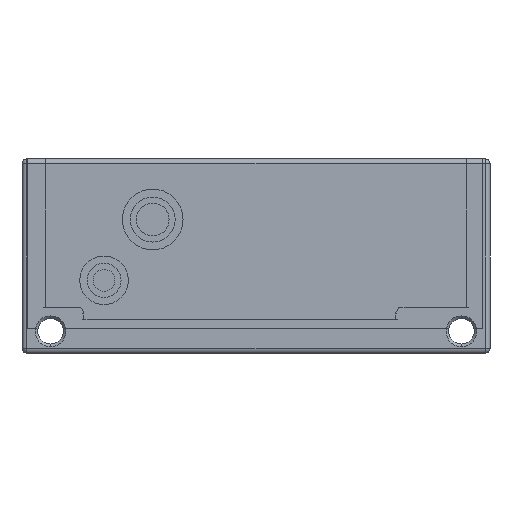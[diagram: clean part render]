
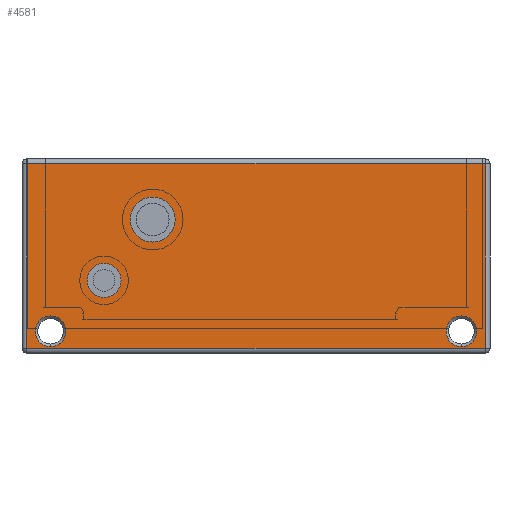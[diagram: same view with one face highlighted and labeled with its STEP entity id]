
A CAD part, front view. The second image highlights one B-rep face of the part: STEP entity #4581.
In plain terms, the highlighted planar face has unit normal (0, -1, 0).
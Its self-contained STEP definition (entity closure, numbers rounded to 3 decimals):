
#6 = DIRECTION ( 'NONE',  ( 0., -1., 0. ) ) ;
#62 = CARTESIAN_POINT ( 'NONE',  ( -35.2, -0.3, -0.83 ) ) ;
#121 = LINE ( 'NONE', #9967, #369 ) ;
#267 = ORIENTED_EDGE ( 'NONE', *, *, #4319, .F. ) ;
#337 = DIRECTION ( 'NONE',  ( 0., 0., 1. ) ) ;
#369 = VECTOR ( 'NONE', #4908, 1000. ) ;
#477 = VERTEX_POINT ( 'NONE', #10127 ) ;
#709 = EDGE_CURVE ( 'NONE', #477, #6139, #9140, .T. ) ;
#722 = EDGE_CURVE ( 'NONE', #6003, #10353, #3572, .T. ) ;
#779 = EDGE_CURVE ( 'NONE', #7258, #6679, #6004, .T. ) ;
#1128 = ORIENTED_EDGE ( 'NONE', *, *, #3083, .F. ) ;
#1199 = FACE_OUTER_BOUND ( 'NONE', #9115, .T. ) ;
#1308 = CARTESIAN_POINT ( 'NONE',  ( 40.2, -0.3, -31.23 ) ) ;
#1378 = EDGE_LOOP ( 'NONE', ( #9642, #267 ) ) ;
#1395 = CARTESIAN_POINT ( 'NONE',  ( 36.3, -0.3, -30.94 ) ) ;
#1521 = CARTESIAN_POINT ( 'NONE',  ( -10.8, -0.3, -10.03 ) ) ;
#1684 = DIRECTION ( 'NONE',  ( 0., -1., 0. ) ) ;
#1752 = ORIENTED_EDGE ( 'NONE', *, *, #2335, .T. ) ;
#1864 = CARTESIAN_POINT ( 'NONE',  ( -22.5, -0.3, -20.03 ) ) ;
#1992 = EDGE_LOOP ( 'NONE', ( #1128, #8421 ) ) ;
#2044 = EDGE_CURVE ( 'NONE', #7936, #4345, #2794, .T. ) ;
#2070 = DIRECTION ( 'NONE',  ( 1., 0., 0. ) ) ;
#2239 = FACE_BOUND ( 'NONE', #7677, .T. ) ;
#2335 = EDGE_CURVE ( 'NONE', #4345, #477, #121, .T. ) ;
#2364 = CARTESIAN_POINT ( 'NONE',  ( -14.5, -0.3, -10.03 ) ) ;
#2405 = DIRECTION ( 'NONE',  ( 0., 0., -1. ) ) ;
#2545 = AXIS2_PLACEMENT_3D ( 'NONE', #7473, #6, #6481 ) ;
#2738 = CARTESIAN_POINT ( 'NONE',  ( -31.3, -0.3, -28.415 ) ) ;
#2791 = VERTEX_POINT ( 'NONE', #1521 ) ;
#2794 = LINE ( 'NONE', #8663, #4095 ) ;
#2932 = CIRCLE ( 'NONE', #5522, 2.525 ) ;
#3050 = AXIS2_PLACEMENT_3D ( 'NONE', #4085, #1684, #9040 ) ;
#3055 = DIRECTION ( 'NONE',  ( 0., -1., 0. ) ) ;
#3058 = CARTESIAN_POINT ( 'NONE',  ( -19.7, -0.3, -20.03 ) ) ;
#3082 = ORIENTED_EDGE ( 'NONE', *, *, #4508, .F. ) ;
#3083 = EDGE_CURVE ( 'NONE', #6679, #7258, #8988, .T. ) ;
#3265 = CARTESIAN_POINT ( 'NONE',  ( 36.3, -0.3, -25.89 ) ) ;
#3530 = CARTESIAN_POINT ( 'NONE',  ( -35.2, -0.3, -31.23 ) ) ;
#3572 = CIRCLE ( 'NONE', #3050, 2.525 ) ;
#3651 = DIRECTION ( 'NONE',  ( 0., 0., -1. ) ) ;
#3987 = CARTESIAN_POINT ( 'NONE',  ( -31.3, -0.3, -28.415 ) ) ;
#4085 = CARTESIAN_POINT ( 'NONE',  ( 36.3, -0.3, -28.415 ) ) ;
#4095 = VECTOR ( 'NONE', #337, 1000. ) ;
#4096 = DIRECTION ( 'NONE',  ( 0., 0., -1. ) ) ;
#4172 = VERTEX_POINT ( 'NONE', #10348 ) ;
#4219 = CARTESIAN_POINT ( 'NONE',  ( -25.3, -0.3, -20.03 ) ) ;
#4284 = LINE ( 'NONE', #7566, #8571 ) ;
#4311 = DIRECTION ( 'NONE',  ( 0., -1., 0. ) ) ;
#4319 = EDGE_CURVE ( 'NONE', #10316, #2791, #7976, .T. ) ;
#4345 = VERTEX_POINT ( 'NONE', #8655 ) ;
#4425 = EDGE_CURVE ( 'NONE', #4172, #6234, #2932, .T. ) ;
#4479 = AXIS2_PLACEMENT_3D ( 'NONE', #62, #5826, #8169 ) ;
#4508 = EDGE_CURVE ( 'NONE', #10353, #6003, #7098, .T. ) ;
#4512 = DIRECTION ( 'NONE',  ( 0., -1., 0. ) ) ;
#4581 = ADVANCED_FACE ( 'NONE', ( #1199, #2239, #5549, #8872, #7844 ), #6202, .T. ) ;
#4607 = ORIENTED_EDGE ( 'NONE', *, *, #722, .F. ) ;
#4627 = DIRECTION ( 'NONE',  ( 0., 0., -1. ) ) ;
#4713 = ORIENTED_EDGE ( 'NONE', *, *, #709, .T. ) ;
#4832 = AXIS2_PLACEMENT_3D ( 'NONE', #8706, #3055, #4627 ) ;
#4908 = DIRECTION ( 'NONE',  ( -1., 0., 0. ) ) ;
#4944 = CARTESIAN_POINT ( 'NONE',  ( -31.3, -0.3, -25.89 ) ) ;
#4952 = CARTESIAN_POINT ( 'NONE',  ( -35.2, -0.3, -32.03 ) ) ;
#5362 = ORIENTED_EDGE ( 'NONE', *, *, #4425, .F. ) ;
#5522 = AXIS2_PLACEMENT_3D ( 'NONE', #2738, #4311, #3651 ) ;
#5543 = CARTESIAN_POINT ( 'NONE',  ( -14.5, -0.3, -10.03 ) ) ;
#5549 = FACE_BOUND ( 'NONE', #7392, .T. ) ;
#5815 = AXIS2_PLACEMENT_3D ( 'NONE', #5543, #4512, #2070 ) ;
#5826 = DIRECTION ( 'NONE',  ( 0., -1., 0. ) ) ;
#6003 = VERTEX_POINT ( 'NONE', #3265 ) ;
#6004 = CIRCLE ( 'NONE', #2545, 2.8 ) ;
#6139 = VERTEX_POINT ( 'NONE', #3530 ) ;
#6158 = ORIENTED_EDGE ( 'NONE', *, *, #7672, .F. ) ;
#6202 = PLANE ( 'NONE',  #4479 ) ;
#6218 = AXIS2_PLACEMENT_3D ( 'NONE', #2364, #9055, #8244 ) ;
#6234 = VERTEX_POINT ( 'NONE', #4944 ) ;
#6319 = AXIS2_PLACEMENT_3D ( 'NONE', #3987, #9865, #4096 ) ;
#6326 = CIRCLE ( 'NONE', #5815, 3.7 ) ;
#6410 = ORIENTED_EDGE ( 'NONE', *, *, #2044, .T. ) ;
#6481 = DIRECTION ( 'NONE',  ( 1., 0., 0. ) ) ;
#6679 = VERTEX_POINT ( 'NONE', #3058 ) ;
#6881 = VECTOR ( 'NONE', #2405, 1000. ) ;
#7098 = CIRCLE ( 'NONE', #4832, 2.525 ) ;
#7258 = VERTEX_POINT ( 'NONE', #4219 ) ;
#7392 = EDGE_LOOP ( 'NONE', ( #5362, #6158 ) ) ;
#7473 = CARTESIAN_POINT ( 'NONE',  ( -22.5, -0.3, -20.03 ) ) ;
#7566 = CARTESIAN_POINT ( 'NONE',  ( -35.2, -0.3, -31.23 ) ) ;
#7666 = DIRECTION ( 'NONE',  ( 1., 0., 0. ) ) ;
#7672 = EDGE_CURVE ( 'NONE', #6234, #4172, #8246, .T. ) ;
#7677 = EDGE_LOOP ( 'NONE', ( #3082, #4607 ) ) ;
#7844 = FACE_BOUND ( 'NONE', #1992, .T. ) ;
#7936 = VERTEX_POINT ( 'NONE', #1308 ) ;
#7967 = EDGE_CURVE ( 'NONE', #2791, #10316, #6326, .T. ) ;
#7976 = CIRCLE ( 'NONE', #6218, 3.7 ) ;
#8169 = DIRECTION ( 'NONE',  ( 1., 0., 0. ) ) ;
#8244 = DIRECTION ( 'NONE',  ( 1., 0., 0. ) ) ;
#8246 = CIRCLE ( 'NONE', #6319, 2.525 ) ;
#8421 = ORIENTED_EDGE ( 'NONE', *, *, #779, .F. ) ;
#8448 = DIRECTION ( 'NONE',  ( 0., -1., 0. ) ) ;
#8571 = VECTOR ( 'NONE', #7666, 1000. ) ;
#8655 = CARTESIAN_POINT ( 'NONE',  ( 40.2, -0.3, -0.83 ) ) ;
#8663 = CARTESIAN_POINT ( 'NONE',  ( 40.2, -0.3, -0.03 ) ) ;
#8706 = CARTESIAN_POINT ( 'NONE',  ( 36.3, -0.3, -28.415 ) ) ;
#8872 = FACE_BOUND ( 'NONE', #1378, .T. ) ;
#8988 = CIRCLE ( 'NONE', #10187, 2.8 ) ;
#9040 = DIRECTION ( 'NONE',  ( 0., 0., -1. ) ) ;
#9055 = DIRECTION ( 'NONE',  ( 0., -1., 0. ) ) ;
#9115 = EDGE_LOOP ( 'NONE', ( #6410, #1752, #4713, #10224 ) ) ;
#9140 = LINE ( 'NONE', #4952, #6881 ) ;
#9642 = ORIENTED_EDGE ( 'NONE', *, *, #7967, .F. ) ;
#9717 = CARTESIAN_POINT ( 'NONE',  ( -18.2, -0.3, -10.03 ) ) ;
#9865 = DIRECTION ( 'NONE',  ( 0., -1., 0. ) ) ;
#9967 = CARTESIAN_POINT ( 'NONE',  ( -35.2, -0.3, -0.83 ) ) ;
#10021 = DIRECTION ( 'NONE',  ( 1., 0., 0. ) ) ;
#10103 = EDGE_CURVE ( 'NONE', #6139, #7936, #4284, .T. ) ;
#10127 = CARTESIAN_POINT ( 'NONE',  ( -35.2, -0.3, -0.83 ) ) ;
#10187 = AXIS2_PLACEMENT_3D ( 'NONE', #1864, #8448, #10021 ) ;
#10224 = ORIENTED_EDGE ( 'NONE', *, *, #10103, .T. ) ;
#10316 = VERTEX_POINT ( 'NONE', #9717 ) ;
#10348 = CARTESIAN_POINT ( 'NONE',  ( -31.3, -0.3, -30.94 ) ) ;
#10353 = VERTEX_POINT ( 'NONE', #1395 ) ;
